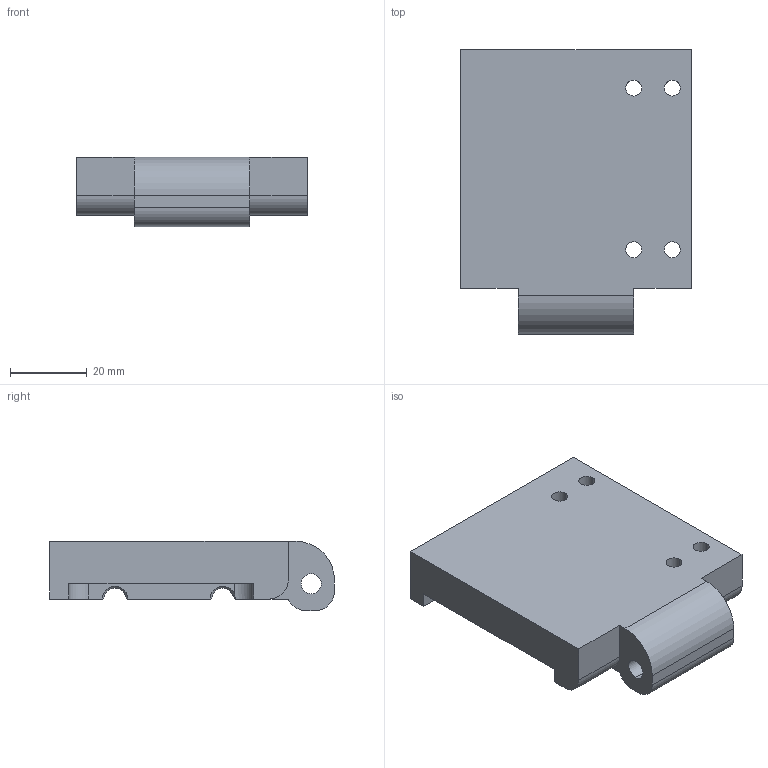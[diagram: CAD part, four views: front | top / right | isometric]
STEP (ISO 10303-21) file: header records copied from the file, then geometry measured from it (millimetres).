
FILE_DESCRIPTION (( 'STEP AP214' ), '1' );
FILE_NAME ('GZ28.05_V1奻揤輸.STEP', '2021-04-11T15:48:49', ( 'hp' ), ( '' ), 'SwSTEP 2.0', 'SolidWorks 2017', '' );
FILE_SCHEMA (( 'AUTOMOTIVE_DESIGN' ));
Length unit declared in the file: millimetre
Products named in the file (1): GZ28.05_V1奻揤輸
Bounding box: 60 x 74 x 18 mm (x, y, z)
Volume: 51767.3 mm3; surface area: 13850.3 mm2
Topology: 1 solids, 1 shells, 60 faces, 161 edges, 103 vertices
Faces by surface type: cylinder 25, plane 22, cone 12, bspline 1
Entity records: 2112 total; most frequent: CARTESIAN_POINT 444, DIRECTION 319, ORIENTED_EDGE 318, EDGE_CURVE 159, AXIS2_PLACEMENT_3D 120, VERTEX_POINT 103, VECTOR 79, LINE 79
